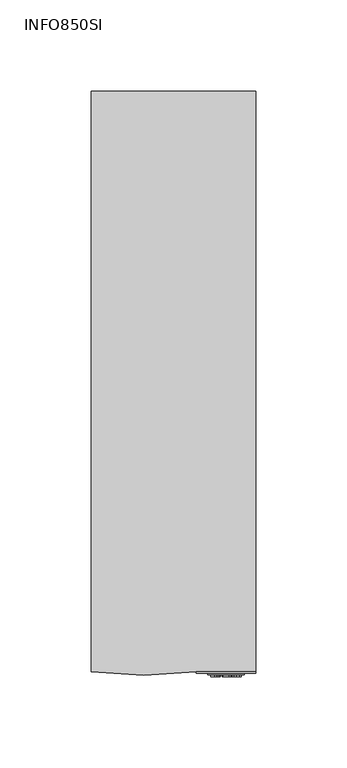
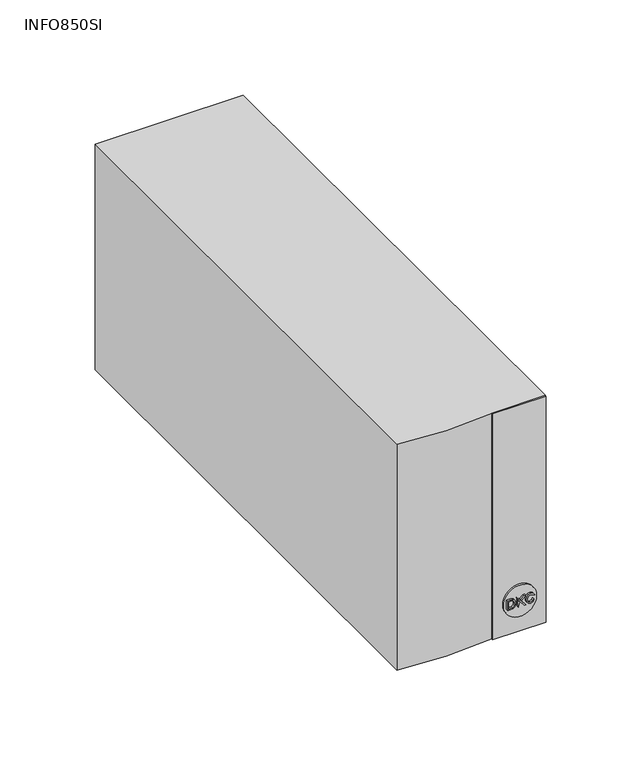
"""IFC4 building model written with IfcOpenShell, lengths in millimetres: proxy geometry, НВО_КНС_ИБПInfoSI_DKC : INFO850SI."""

from ifc_helpers import new_model, si_unit, point, frame, frame_2d, origin, origin_with_axes, place, context, project, spatial, polyline, circle_curve, trimmed, segment, composite_curve, outline, extrude, source, transform, mapped, element, save


def info850si_09f0f657(model_context):
    return source(origin(), model_context, "Body", "SweptSolid", [
        extrude(outline(polyline([(17.0, 20.6036211), (17.0, 22.782954), (17.103007, 23.7519552), (17.9520786, 25.0226196), (18.829845, 25.4346475), (20.0460629, 25.595044), (21.4793312, 25.358128), (22.5094008, 24.6444369), (22.9405585, 23.7585771), (23.0273786, 22.6828901), (23.0273786, 20.6036211), (17.0, 20.6036211)]), holes=[polyline([(17.7534223, 21.3570434), (22.2739563, 21.3570434), (22.2739563, 22.6696464), (22.153291, 23.7379757), (21.4852173, 24.5200928), (20.0578351, 24.8416217), (18.9181367, 24.6775463), (17.8623154, 23.6599847), (17.7534223, 22.6902478), (17.7534223, 21.3570434)])]), frame((0.0, 4.25, 0.0), z_axis=(0.0, 1.0, 0.0), x_axis=(0.0, 0.0, 1.0)), (0.0, 0.0, 1.0), 6.0),
        extrude(outline(polyline([(17.0, 27.0077109), (19.0719114, 27.384422), (20.0401768, 28.3997763), (17.0, 30.7012461), (17.0, 31.6224226), (20.5493255, 28.933941), (23.0273786, 31.5282448), (23.0273786, 30.4746308), (20.076965, 27.384422), (23.0273786, 26.6309997), (17.0, 27.0077109)])), frame((0.0, 4.25, 0.0), z_axis=(0.0, 1.0, 0.0), x_axis=(0.0, 0.0, 1.0)), (0.0, 0.0, 1.0), 6.0),
        extrude(outline(polyline([(19.1425447, 36.4254899), (18.0330126, 35.786111), (17.6592445, 34.6331689), (17.9336845, 33.5935343), (18.7628905, 32.8857294), (20.0607782, 32.6583783), (21.180611, 32.8504127), (22.0458694, 33.5162791), (22.3681341, 34.694973), (22.0775073, 35.7132704), (21.3307068, 37.0847345), (22.652139, 36.2334555), (23.1215564, 34.7244036), (22.7588248, 33.2764201), (21.6971173, 32.2618015), (20.0593067, 31.904956), (18.4479835, 32.2205987), (17.3016632, 33.1403037), (16.9058222, 34.7082168), (17.4289504, 36.2856948), (19.1425447, 36.4254899)])), frame((0.0, 4.25, 0.0), z_axis=(0.0, 1.0, 0.0), x_axis=(0.0, 0.0, 1.0)), (0.0, 0.0, 1.0), 6.0),
        extrude(outline(composite_curve([segment(trimmed(circle_curve(frame_2d((20.0, 28.75)), 10.0), [point((20.0, 18.75))], [point((20.0, 38.75))], False, "CARTESIAN"), True, "CONTINUOUS"), segment(trimmed(circle_curve(frame_2d((20.0, 28.75)), 10.0), [point((20.0, 38.75))], [point((20.0, 18.75))], False, "CARTESIAN"), True, "CONTINUOUS")], self_intersect=False)), frame((0.0, 5.25, 0.0), z_axis=(0.0, 1.0, 0.0), x_axis=(0.0, 0.0, 1.0)), (0.0, 0.0, 1.0), 10.0),
        extrude(outline(polyline([(45.0, 6.2), (12.5, 6.2), (12.5, 7.0), (45.0, 7.0), (45.0, 6.2)])), origin_with_axes(), (0.0, 0.0, 1.0), 145.0),
        extrude(outline(composite_curve([segment(polyline([(45.0, 325.0), (45.0, 7.0), (12.5, 7.0)]), True, "CONTINUOUS"), segment(trimmed(circle_curve(frame_2d((-16.25, 229.435312)), 224.2856003), [point((12.5, 7.0))], [point((-45.0, 7.0))], False, "CARTESIAN"), True, "CONTINUOUS"), segment(polyline([(-45.0, 7.0), (-45.0, 325.0), (45.0, 325.0)]), True, "CONTINUOUS")], self_intersect=False)), origin_with_axes(), (0.0, 0.0, 1.0), 145.0),
    ])


if __name__ == "__main__":
    model = new_model("IFC4")
    model_context = context("Model", 3, world=origin())
    ifc_project = project(units=[si_unit("LENGTHUNIT", "METRE", prefix="MILLI")], contexts=[model_context])
    site = spatial("IfcSite", under=ifc_project)
    building = spatial("IfcBuilding", under=site)
    placement = place(None, origin())
    info850si_shape = info850si_09f0f657(model_context)
    element("IfcBuildingElementProxy", 1, Name="НВО_КНС_ИБПInfoSI_DKC : INFO850SI", ObjectType="НВО_КНС_ИБПInfoSI_DKC : INFO850SI", at=placement, inside=building, context=model_context, shape_type="MappedRepresentation", body=[
        mapped(info850si_shape, transform((0.0, 0.0, 0.0), x_axis=(1.0, 0.0, 0.0), y_axis=(0.0, 1.0, 0.0), z_axis=(0.0, 0.0, 1.0))),
    ])
    save(model, "model.ifc")
